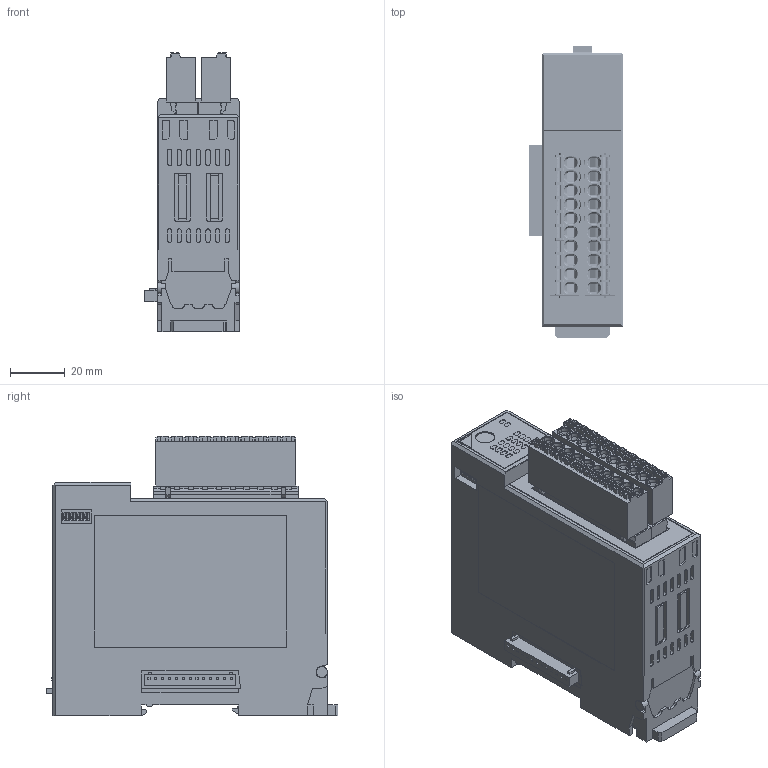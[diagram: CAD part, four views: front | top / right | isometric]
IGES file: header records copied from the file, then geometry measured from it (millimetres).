
Start section: SolidWorks IGES file using analytic representation for surfaces
Bounding box: 34.5 x 106.35 x 102 mm (x, y, z)
Surface area: 48938.5 mm2 (no closed solid volume)
Topology: 0 solids, 0 shells, 4063 faces, 30490 edges, 30450 vertices
Faces by surface type: bspline 2790, revolution 1273
